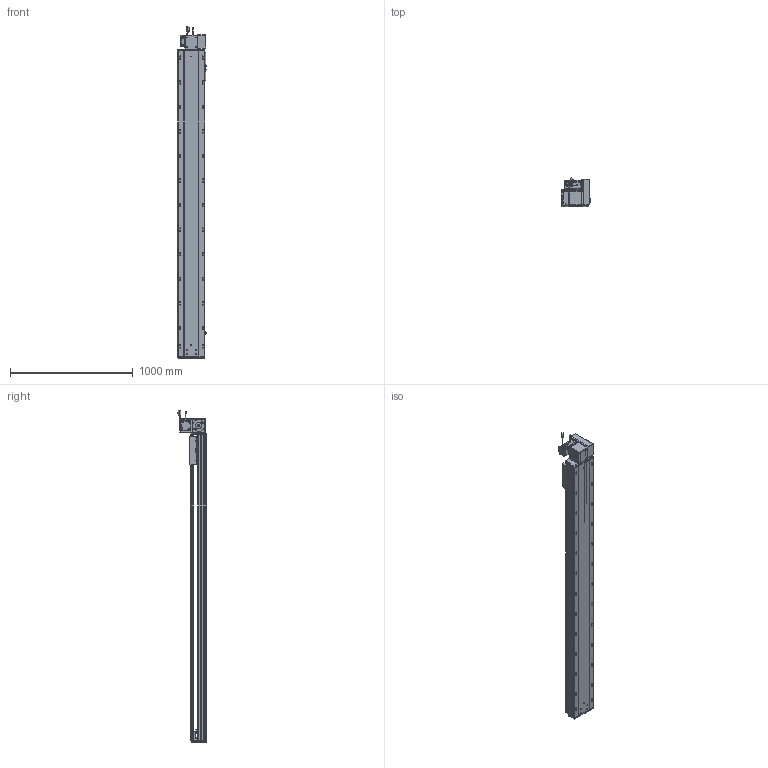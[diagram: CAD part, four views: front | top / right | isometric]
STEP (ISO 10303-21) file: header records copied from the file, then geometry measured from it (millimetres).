
FILE_DESCRIPTION (( 'STEP AP203' ), '1' );
FILE_NAME ('RY220-T-300-UR.SLDASM_2150.step', '2022-07-25T08:44:55', ( '' ), ( '' ), 'SwSTEP 2.0', 'SolidWorks 2016', '' );
FILE_SCHEMA (( 'CONFIG_CONTROL_DESIGN' ));
Length unit declared in the file: millimetre
Products named in the file (14): RY220圉猾敕々湍臏賑輸; RY220-T-湍謫欶(鍼踢); 覜茼ん672; RY220翋肮祭謫裔啣; RY220-T菁釱-300_2150; 110A-T-肮祭謫釱傷裔; RY220-同步轮副支撑座6304×2; RY220-T-300-UR.SLDASM_2150; RY220翋肮祭謫釱; RY220-俋离672覜茼んえ; RY220-T-蛌殏萇儂假蚾啣(750W); 怢湛750W_ECMA-CX0807ES; RY220-T-300-奻裔啣_2150; 滅袉蝶18-15
Assembly tree (18 placements, depth 2):
  RY220-T-300-UR.SLDASM_2150
    RY220-T菁釱-300_2150
    RY220翋肮祭謫釱
    覜茼ん672  x3
    RY220圉猾敕々湍臏賑輸
    RY220-T-300-奻裔啣_2150
    RY220-俋离672覜茼んえ
    滅袉蝶18-15  x3
    RY220翋肮祭謫裔啣  x2
    110A-T-肮祭謫釱傷裔
    怢湛750W_ECMA-CX0807ES
    RY220-T-湍謫欶(鍼踢)
    RY220-T-蛌殏萇儂假蚾啣(750W)
    RY220-同步轮副支撑座6304×2
Bounding box: 238.7 x 231.74 x 2703.27 mm (x, y, z)
Volume: 19702618.9 mm3; surface area: 6006176.4 mm2
Topology: 19 solids, 19 shells, 2860 faces, 7903 edges, 4972 vertices
Faces by surface type: cylinder 1384, plane 1069, cone 325, bspline 56, sphere 16, torus 10
Entity records: 95267 total; most frequent: CARTESIAN_POINT 26975, ORIENTED_EDGE 14138, DIRECTION 13548, EDGE_CURVE 7069, AXIS2_PLACEMENT_3D 4854, VERTEX_POINT 4596, LINE 3840, VECTOR 3840
